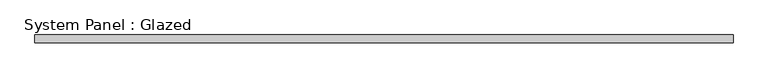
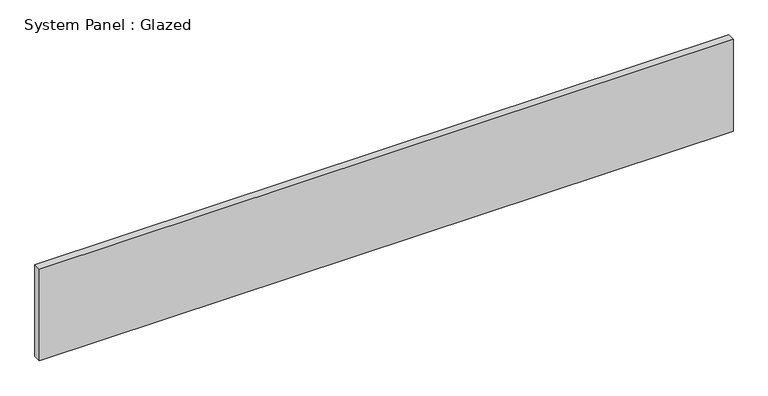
"""IFC4 building model written with IfcOpenShell, lengths in millimetres: plate geometry, System Panel : Glazed."""

import ifcopenshell
import ifcopenshell.guid

model = None  # the IFC model being written
_history = None  # IfcOwnerHistory: only IFC2X3 demands one
_inside = {}  # id of a spatial element -> (the spatial element, [elements in it])
_under = {}  # id of a project, library or spatial element -> (it, [spatial elements below it])
_declared = {}  # id of a project -> (the project, [libraries it declares])
_typed = {}  # id of a type object -> (the type object, [elements of that type])
_made_of = {}  # id of a material, layer set ... -> (it, [elements and type objects made of it])


def new_model(schema):
    """Start an empty IFC model of exactly this schema.

    Asked for "IFC4X3", IfcOpenShell would pick the latest addendum, in which some entities
    have other attributes; the version numbers below select the first issue.
    IFC2X3 requires an IfcOwnerHistory on every rooted entity: one is made here for all.
    """
    global model, _history
    if schema == "IFC4X3":
        model = ifcopenshell.file(schema_version=(4, 3, 0, 0))
    else:
        model = ifcopenshell.file(schema=schema)
    _inside.clear()
    _under.clear()
    _declared.clear()
    _typed.clear()
    _made_of.clear()
    _history = None
    if model.schema == "IFC2X3":
        org = make("IfcOrganization", Name="unknown")
        user = make(
            "IfcPersonAndOrganization",
            ThePerson=make("IfcPerson", FamilyName="unknown"),
            TheOrganization=org,
        )
        app = make(
            "IfcApplication",
            ApplicationDeveloper=org,
            Version="unknown",
            ApplicationFullName="unknown",
            ApplicationIdentifier="unknown",
        )
        _history = make(
            "IfcOwnerHistory",
            OwningUser=user,
            OwningApplication=app,
            ChangeAction="ADDED",
            CreationDate=0,
        )
    return model


def make(cls, **values):
    """One entity of the class cls with the attributes given. An attribute that is None is left unset."""
    return model.create_entity(
        cls, **{name: value for name, value in values.items() if value is not None}
    )


def rooted(cls, **values):
    """An entity with a GlobalId (a new one), such as an element, a storey or a relation."""
    return make(cls, GlobalId=ifcopenshell.guid.new(), OwnerHistory=_history, **values)


def si_unit(unit_type, name, prefix=None):
    """IfcSIUnit, for example si_unit("LENGTHUNIT", "METRE", prefix="MILLI")."""
    return make("IfcSIUnit", UnitType=unit_type, Prefix=prefix, Name=name)


def assignment(units):
    """IfcUnitAssignment: the units of a project."""
    return None if units is None else make("IfcUnitAssignment", Units=units)


def point(xyz):
    """IfcCartesianPoint."""
    return None if xyz is None else make("IfcCartesianPoint", Coordinates=xyz)


def direction(xyz):
    """IfcDirection."""
    return None if xyz is None else make("IfcDirection", DirectionRatios=xyz)


def frame(location, z_axis=None, x_axis=None):
    """IfcAxis2Placement3D, a coordinate frame: its origin and axes. An axis left out is left unset."""
    return make(
        "IfcAxis2Placement3D",
        Location=point(location),
        Axis=direction(z_axis),
        RefDirection=direction(x_axis),
    )


def origin():
    """The frame at (0, 0, 0) with its axes left unset."""
    return frame((0.0, 0.0, 0.0))


def origin_with_axes():
    """The frame at (0, 0, 0) with the z axis (0, 0, 1) and the x axis (1, 0, 0) written out."""
    return frame((0.0, 0.0, 0.0), z_axis=(0.0, 0.0, 1.0), x_axis=(1.0, 0.0, 0.0))


def place(relative_to, where):
    """IfcLocalPlacement: puts the frame where relative to a parent placement (None: the world)."""
    return make(
        "IfcLocalPlacement", PlacementRelTo=relative_to, RelativePlacement=where
    )


def context(
    kind, dimensions, precision=None, world=None, true_north=None, identifier=None
):
    """IfcGeometricRepresentationContext, for example the 3D "Model" context."""
    return make(
        "IfcGeometricRepresentationContext",
        ContextIdentifier=identifier,
        ContextType=kind,
        CoordinateSpaceDimension=dimensions,
        Precision=precision,
        WorldCoordinateSystem=world,
        TrueNorth=true_north,
    )


def project(units=None, contexts=None):
    """IfcProject with its units and contexts."""
    return rooted(
        "IfcProject",
        Name="project",
        RepresentationContexts=contexts,
        UnitsInContext=assignment(units),
    )


def spatial(cls, under=None, at=None, **own):
    """A site, building, storey or space (cls), placed at a placement, below another one or the project."""
    s = rooted(cls, ObjectPlacement=at, **own)
    if under is not None:
        _under.setdefault(under.id(), (under, []))[1].append(s)
    return s


def polyline(points):
    """IfcPolyline through the points."""
    return make("IfcPolyline", Points=[point(p) for p in points])


def outline(outer, holes=None, kind="AREA"):
    """IfcArbitraryClosedProfileDef: a profile drawn as a closed curve; with holes, ...WithVoids."""
    if holes is None:
        return make("IfcArbitraryClosedProfileDef", ProfileType=kind, OuterCurve=outer)
    return make(
        "IfcArbitraryProfileDefWithVoids",
        ProfileType=kind,
        OuterCurve=outer,
        InnerCurves=holes,
    )


def extrude(swept, where, along, depth):
    """IfcExtrudedAreaSolid: the profile swept, set in the frame where, extruded along a direction by depth."""
    return make(
        "IfcExtrudedAreaSolid",
        SweptArea=swept,
        Position=where,
        ExtrudedDirection=direction(along),
        Depth=depth,
    )


def shape(context_of_items, identifier, shape_type, items):
    """IfcShapeRepresentation: the items that make up one representation, for example the "Body"."""
    return make(
        "IfcShapeRepresentation",
        ContextOfItems=context_of_items,
        RepresentationIdentifier=identifier,
        RepresentationType=shape_type,
        Items=items,
    )


def source(mapping_origin, context_of_items, identifier, shape_type, items):
    """IfcRepresentationMap: a shape defined once, which mapped items show again and again."""
    return make(
        "IfcRepresentationMap",
        MappingOrigin=mapping_origin,
        MappedRepresentation=shape(context_of_items, identifier, shape_type, items),
    )


def transform(
    local_origin,
    x_axis=None,
    y_axis=None,
    z_axis=None,
    scale=None,
    scale2=None,
    scale3=None,
    uniform=True,
):
    """IfcCartesianTransformationOperator3D, or its non-uniform kind. x_axis, y_axis, z_axis: its Axis1, 2, 3."""
    if uniform:
        return make(
            "IfcCartesianTransformationOperator3D",
            Axis1=direction(x_axis),
            Axis2=direction(y_axis),
            LocalOrigin=point(local_origin),
            Scale=scale,
            Axis3=direction(z_axis),
        )
    return make(
        "IfcCartesianTransformationOperator3DnonUniform",
        Axis1=direction(x_axis),
        Axis2=direction(y_axis),
        LocalOrigin=point(local_origin),
        Scale=scale,
        Axis3=direction(z_axis),
        Scale2=scale2,
        Scale3=scale3,
    )


def mapped(mapping_source, mapping_target):
    """IfcMappedItem: shows the shape of a source again, moved by a transform."""
    return make(
        "IfcMappedItem", MappingSource=mapping_source, MappingTarget=mapping_target
    )


def made_of(thing, what):
    """Note that an element or type object is made of a material, layer set ...; save() writes the relation."""
    if what is not None:
        _made_of.setdefault(what.id(), (what, []))[1].append(thing)
    return thing


def element(
    cls,
    number,
    at=None,
    inside=None,
    cuts=None,
    type_object=None,
    material=None,
    context=None,
    identifier="Body",
    shape_type=None,
    held_by="IfcProductDefinitionShape",
    body=None,
    shapes=None,
    **own,
):
    """One element of the class cls, such as IfcWall. Its Tag is "e" and its number.

    at: its placement. inside: the storey or other place that contains it. cuts: it is an
    opening in that element (IfcRelVoidsElement). A single representation is given by context,
    identifier, shape_type and body (its items); several are given by shapes. held_by: the class
    of the entity that holds the representations. save() writes the other relations.
    """
    e = rooted(cls, Tag="e%d" % number, ObjectPlacement=at, **own)
    if body is not None:
        shapes = [shape(context, identifier, shape_type, body)]
    if shapes is not None:
        e.Representation = make(held_by, Representations=shapes)
    if inside is not None:
        _inside.setdefault(inside.id(), (inside, []))[1].append(e)
    if cuts is not None:
        rooted(
            "IfcRelVoidsElement", RelatingBuildingElement=cuts, RelatedOpeningElement=e
        )
    if type_object is not None:
        _typed.setdefault(type_object.id(), (type_object, []))[1].append(e)
    return made_of(e, material)


def aggregate(whole, parts):
    """IfcRelAggregates: a whole, such as a stair, and the parts it consists of."""
    return rooted("IfcRelAggregates", RelatingObject=whole, RelatedObjects=parts)


def save(model, path):
    """Write the relations noted so far, then the file.

    IfcRelAggregates (storeys below a building ...), IfcRelContainedInSpatialStructure (elements
    in a storey), IfcRelDefinesByType, IfcRelAssociatesMaterial and IfcRelDeclares: one each for
    every whole, place, type object, material and project.
    """
    for whole, parts in _under.values():
        aggregate(whole, parts)
    for where, things in _inside.values():
        rooted(
            "IfcRelContainedInSpatialStructure",
            RelatedElements=things,
            RelatingStructure=where,
        )
    for kind, things in _typed.values():
        rooted("IfcRelDefinesByType", RelatedObjects=things, RelatingType=kind)
    for what, things in _made_of.values():
        rooted("IfcRelAssociatesMaterial", RelatedObjects=things, RelatingMaterial=what)
    for by, libraries in _declared.values():
        rooted("IfcRelDeclares", RelatingContext=by, RelatedDefinitions=libraries)
    model.write(path)


def system_panel_glazed_3cf5a666(model_context):
    return source(origin(), model_context, "Body", "SweptSolid", [
        extrude(outline(polyline([(1500.0, -17.0), (-1500.0, -17.0), (-1500.0, 17.0), (1500.0, 17.0), (1500.0, -17.0)])), origin_with_axes(), (0.0, 0.0, 1.0), 418.8404342),
    ])


if __name__ == "__main__":
    model = new_model("IFC4")
    model_context = context("Model", 3, world=origin())
    ifc_project = project(units=[si_unit("LENGTHUNIT", "METRE", prefix="MILLI")], contexts=[model_context])
    site = spatial("IfcSite", under=ifc_project)
    building = spatial("IfcBuilding", under=site)
    placement = place(None, origin())
    system_panel_glazed_shape = system_panel_glazed_3cf5a666(model_context)
    element("IfcPlate", 1, ObjectType="System Panel : Glazed", at=placement, inside=building, context=model_context, shape_type="MappedRepresentation", body=[
        mapped(system_panel_glazed_shape, transform((0.0, 0.0, 0.0), x_axis=(1.0, 0.0, 0.0), y_axis=(0.0, 1.0, 0.0), z_axis=(0.0, 0.0, 1.0))),
    ])
    save(model, "model.ifc")
